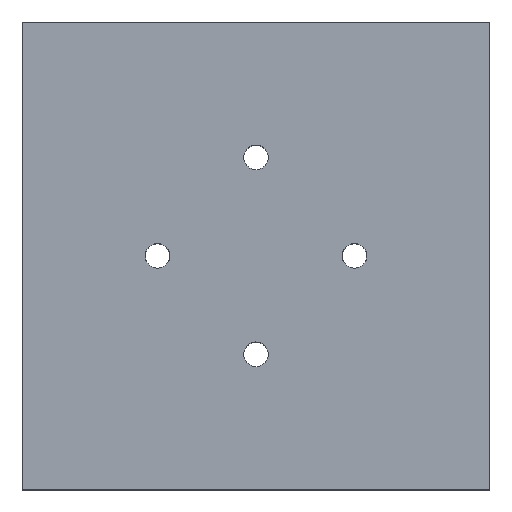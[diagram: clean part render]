
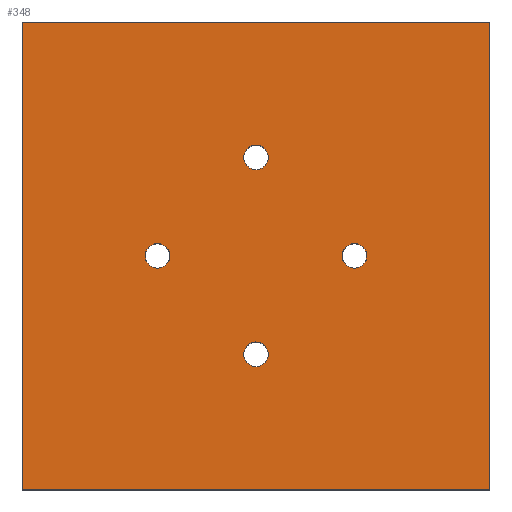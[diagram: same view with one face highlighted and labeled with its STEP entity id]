
A CAD part, top view. The second image highlights one B-rep face of the part: STEP entity #348.
In plain terms, the highlighted planar face has unit normal (0, 0, 1).
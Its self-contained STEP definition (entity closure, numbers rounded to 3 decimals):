
#99 = ORIENTED_EDGE ( 'NONE', *, *, #1620, .T. ) ;
#119 = DIRECTION ( 'NONE',  ( 0., 0., 1. ) ) ;
#121 = DIRECTION ( 'NONE',  ( 0., 0., 1. ) ) ;
#141 = DIRECTION ( 'NONE',  ( 1., 0., 0. ) ) ;
#151 = ORIENTED_EDGE ( 'NONE', *, *, #1515, .T. ) ;
#171 = CARTESIAN_POINT ( 'NONE',  ( -19., -19., 8. ) ) ;
#189 = ORIENTED_EDGE ( 'NONE', *, *, #212, .T. ) ;
#192 = LINE ( 'NONE', #171, #1990 ) ;
#212 = EDGE_CURVE ( 'NONE', #1699, #755, #1168, .T. ) ;
#231 = ORIENTED_EDGE ( 'NONE', *, *, #1967, .F. ) ;
#259 = VERTEX_POINT ( 'NONE', #1056 ) ;
#276 = LINE ( 'NONE', #1646, #1472 ) ;
#279 = AXIS2_PLACEMENT_3D ( 'NONE', #1587, #895, #1889 ) ;
#288 = DIRECTION ( 'NONE',  ( 0., 0., 1. ) ) ;
#298 = CARTESIAN_POINT ( 'NONE',  ( -8., 0., 8. ) ) ;
#318 = VECTOR ( 'NONE', #1086, 1000. ) ;
#346 = CARTESIAN_POINT ( 'NONE',  ( 19., -19., 8. ) ) ;
#348 = ADVANCED_FACE ( 'NONE', ( #2044, #1230, #1238, #1877, #1897 ), #1887, .T. ) ;
#352 = DIRECTION ( 'NONE',  ( 1., 0., 0. ) ) ;
#400 = CARTESIAN_POINT ( 'NONE',  ( 0., 0., 8. ) ) ;
#455 = AXIS2_PLACEMENT_3D ( 'NONE', #400, #1065, #1735 ) ;
#458 = DIRECTION ( 'NONE',  ( 1., 0., 0. ) ) ;
#474 = VERTEX_POINT ( 'NONE', #2100 ) ;
#525 = CIRCLE ( 'NONE', #1914, 1. ) ;
#631 = CIRCLE ( 'NONE', #907, 1. ) ;
#637 = CARTESIAN_POINT ( 'NONE',  ( 0., 8., 8. ) ) ;
#660 = AXIS2_PLACEMENT_3D ( 'NONE', #1924, #1576, #1273 ) ;
#661 = EDGE_LOOP ( 'NONE', ( #1507, #231 ) ) ;
#668 = DIRECTION ( 'NONE',  ( 1., 0., 0. ) ) ;
#683 = ORIENTED_EDGE ( 'NONE', *, *, #1452, .F. ) ;
#685 = DIRECTION ( 'NONE',  ( 1., 0., 0. ) ) ;
#694 = AXIS2_PLACEMENT_3D ( 'NONE', #1593, #288, #458 ) ;
#755 = VERTEX_POINT ( 'NONE', #1886 ) ;
#783 = ORIENTED_EDGE ( 'NONE', *, *, #936, .T. ) ;
#828 = EDGE_LOOP ( 'NONE', ( #783, #151, #99, #189 ) ) ;
#842 = EDGE_CURVE ( 'NONE', #2154, #1132, #631, .T. ) ;
#866 = DIRECTION ( 'NONE',  ( -1., 0., 0. ) ) ;
#869 = ORIENTED_EDGE ( 'NONE', *, *, #1123, .F. ) ;
#895 = DIRECTION ( 'NONE',  ( 0., 0., 1. ) ) ;
#907 = AXIS2_PLACEMENT_3D ( 'NONE', #1888, #1750, #1093 ) ;
#936 = EDGE_CURVE ( 'NONE', #755, #1023, #276, .T. ) ;
#955 = DIRECTION ( 'NONE',  ( 0., -1., 0. ) ) ;
#956 = CARTESIAN_POINT ( 'NONE',  ( -7., 0., 8. ) ) ;
#981 = CIRCLE ( 'NONE', #279, 1. ) ;
#993 = EDGE_CURVE ( 'NONE', #1999, #474, #2129, .T. ) ;
#997 = CARTESIAN_POINT ( 'NONE',  ( 8., 0., 8. ) ) ;
#1015 = VERTEX_POINT ( 'NONE', #2123 ) ;
#1023 = VERTEX_POINT ( 'NONE', #1272 ) ;
#1024 = EDGE_LOOP ( 'NONE', ( #1253, #1438 ) ) ;
#1056 = CARTESIAN_POINT ( 'NONE',  ( -9., 0., 8. ) ) ;
#1065 = DIRECTION ( 'NONE',  ( 0., 0., 1. ) ) ;
#1086 = DIRECTION ( 'NONE',  ( 0., 1., 0. ) ) ;
#1093 = DIRECTION ( 'NONE',  ( 1., 0., 0. ) ) ;
#1123 = EDGE_CURVE ( 'NONE', #1304, #1015, #525, .T. ) ;
#1132 = VERTEX_POINT ( 'NONE', #1703 ) ;
#1153 = ORIENTED_EDGE ( 'NONE', *, *, #1863, .F. ) ;
#1156 = AXIS2_PLACEMENT_3D ( 'NONE', #637, #121, #1295 ) ;
#1168 = LINE ( 'NONE', #1667, #1647 ) ;
#1230 = FACE_BOUND ( 'NONE', #2040, .T. ) ;
#1238 = FACE_BOUND ( 'NONE', #1024, .T. ) ;
#1253 = ORIENTED_EDGE ( 'NONE', *, *, #1362, .F. ) ;
#1272 = CARTESIAN_POINT ( 'NONE',  ( -19., -19., 8. ) ) ;
#1273 = DIRECTION ( 'NONE',  ( 1., 0., 0. ) ) ;
#1295 = DIRECTION ( 'NONE',  ( 1., 0., 0. ) ) ;
#1304 = VERTEX_POINT ( 'NONE', #1941 ) ;
#1311 = CARTESIAN_POINT ( 'NONE',  ( -1., -8., 8. ) ) ;
#1326 = EDGE_CURVE ( 'NONE', #259, #2143, #1642, .T. ) ;
#1334 = CARTESIAN_POINT ( 'NONE',  ( 19., 19., 8. ) ) ;
#1362 = EDGE_CURVE ( 'NONE', #2143, #259, #1535, .T. ) ;
#1367 = LINE ( 'NONE', #1927, #318 ) ;
#1438 = ORIENTED_EDGE ( 'NONE', *, *, #1326, .F. ) ;
#1452 = EDGE_CURVE ( 'NONE', #1015, #1304, #1605, .T. ) ;
#1472 = VECTOR ( 'NONE', #955, 1000. ) ;
#1502 = AXIS2_PLACEMENT_3D ( 'NONE', #997, #1656, #685 ) ;
#1507 = ORIENTED_EDGE ( 'NONE', *, *, #993, .F. ) ;
#1515 = EDGE_CURVE ( 'NONE', #1023, #1792, #192, .T. ) ;
#1535 = CIRCLE ( 'NONE', #2029, 1. ) ;
#1576 = DIRECTION ( 'NONE',  ( 0., 0., 1. ) ) ;
#1587 = CARTESIAN_POINT ( 'NONE',  ( 0., -8., 8. ) ) ;
#1593 = CARTESIAN_POINT ( 'NONE',  ( -8., 0., 8. ) ) ;
#1604 = CIRCLE ( 'NONE', #660, 1. ) ;
#1605 = CIRCLE ( 'NONE', #1502, 1. ) ;
#1615 = EDGE_LOOP ( 'NONE', ( #1153, #2128 ) ) ;
#1620 = EDGE_CURVE ( 'NONE', #1792, #1699, #1367, .T. ) ;
#1642 = CIRCLE ( 'NONE', #694, 1. ) ;
#1646 = CARTESIAN_POINT ( 'NONE',  ( -19., 19., 8. ) ) ;
#1647 = VECTOR ( 'NONE', #866, 1000. ) ;
#1656 = DIRECTION ( 'NONE',  ( 0., 0., 1. ) ) ;
#1667 = CARTESIAN_POINT ( 'NONE',  ( -19., 19., 8. ) ) ;
#1699 = VERTEX_POINT ( 'NONE', #1334 ) ;
#1703 = CARTESIAN_POINT ( 'NONE',  ( 1., -8., 8. ) ) ;
#1735 = DIRECTION ( 'NONE',  ( 1., 0., 0. ) ) ;
#1750 = DIRECTION ( 'NONE',  ( 0., 0., 1. ) ) ;
#1792 = VERTEX_POINT ( 'NONE', #346 ) ;
#1863 = EDGE_CURVE ( 'NONE', #1132, #2154, #981, .T. ) ;
#1877 = FACE_BOUND ( 'NONE', #1615, .T. ) ;
#1886 = CARTESIAN_POINT ( 'NONE',  ( -19., 19., 8. ) ) ;
#1887 = PLANE ( 'NONE',  #455 ) ;
#1888 = CARTESIAN_POINT ( 'NONE',  ( 0., -8., 8. ) ) ;
#1889 = DIRECTION ( 'NONE',  ( 1., 0., 0. ) ) ;
#1897 = FACE_OUTER_BOUND ( 'NONE', #828, .T. ) ;
#1909 = CARTESIAN_POINT ( 'NONE',  ( 1., 8., 8. ) ) ;
#1914 = AXIS2_PLACEMENT_3D ( 'NONE', #2019, #2172, #668 ) ;
#1924 = CARTESIAN_POINT ( 'NONE',  ( 0., 8., 8. ) ) ;
#1927 = CARTESIAN_POINT ( 'NONE',  ( 19., 19., 8. ) ) ;
#1941 = CARTESIAN_POINT ( 'NONE',  ( 7., 0., 8. ) ) ;
#1967 = EDGE_CURVE ( 'NONE', #474, #1999, #1604, .T. ) ;
#1990 = VECTOR ( 'NONE', #352, 1000. ) ;
#1999 = VERTEX_POINT ( 'NONE', #1909 ) ;
#2019 = CARTESIAN_POINT ( 'NONE',  ( 8., 0., 8. ) ) ;
#2029 = AXIS2_PLACEMENT_3D ( 'NONE', #298, #119, #141 ) ;
#2040 = EDGE_LOOP ( 'NONE', ( #683, #869 ) ) ;
#2044 = FACE_BOUND ( 'NONE', #661, .T. ) ;
#2100 = CARTESIAN_POINT ( 'NONE',  ( -1., 8., 8. ) ) ;
#2123 = CARTESIAN_POINT ( 'NONE',  ( 9., 0., 8. ) ) ;
#2128 = ORIENTED_EDGE ( 'NONE', *, *, #842, .F. ) ;
#2129 = CIRCLE ( 'NONE', #1156, 1. ) ;
#2143 = VERTEX_POINT ( 'NONE', #956 ) ;
#2154 = VERTEX_POINT ( 'NONE', #1311 ) ;
#2172 = DIRECTION ( 'NONE',  ( 0., 0., 1. ) ) ;
